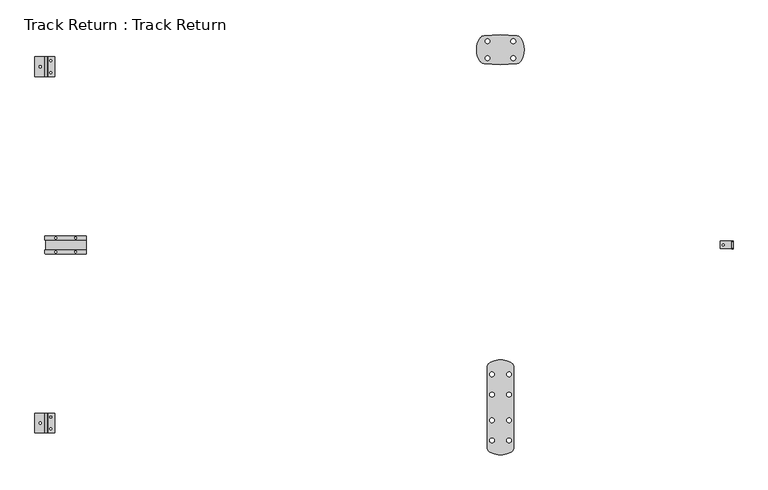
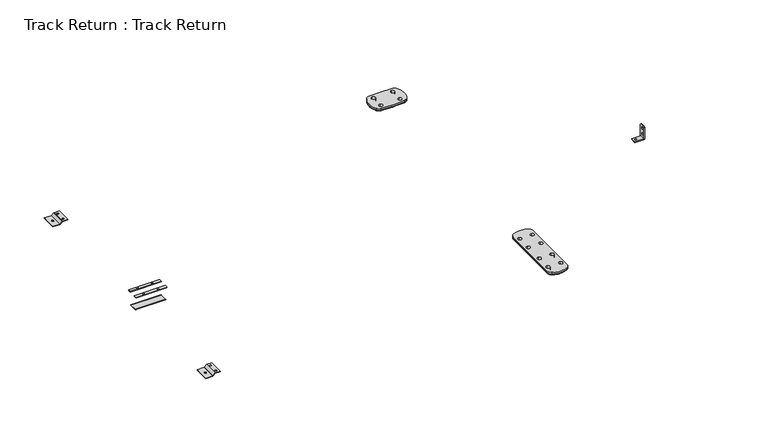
"""IFC4 building model written with IfcOpenShell, lengths in millimetres: furniture geometry, Track Return : Track Return."""

from ifc_helpers import new_model, si_unit, point, frame, frame_2d, origin, place, context, project, spatial, polyline, circle_curve, ellipse_curve, trimmed, segment, composite_curve, outline, extrude, source, transform, mapped, element, save
from ifc_brep_helpers import plane_surface, cylinder_surface, revolved_surface, advanced_brep


def track_return_track_return_1cf5c929(model_context):
    return source(origin(), model_context, "Body", "SolidModel", [
        advanced_brep(
        [(554.0000507, -9.5000015, 649.9999849), (554.0000507, -9.5000015, 646.99995), (583.9998158, -9.5000015, 646.99995), (587.0000713, -9.5000015, 649.9999849), (583.9999638, -9.5000015, 649.9999849), (587.0000713, 9.5000015, 649.9999849), (583.9998158, 9.5000015, 646.99995), (554.0000507, 9.5000015, 646.99995), (554.0000507, 9.5000015, 649.9999849), (583.9999638, 9.5000015, 649.9999849), (564.4999912, 0.0, 649.9999849), (559.5000057, 0.0, 649.9999849), (559.5000057, 0.0, 646.99995), (564.4999912, 0.0, 646.99995), (587.0000713, 10.3499496, 649.9999849), (587.0000713, 10.3499496, 690.9999533), (587.0000713, 8.349781, 692.9999765), (587.0000713, -8.3500717, 692.9999765), (587.0000713, -10.3502403, 690.9999533), (587.0000713, -10.3502403, 649.9999849), (587.0000713, -3.2499833, 682.9999692), (587.0000713, 3.2499833, 682.9999692), (587.0000713, -3.2499833, 663.0000272), (587.0000713, 3.2499833, 663.0000272), (583.9999638, -10.3502403, 649.9999849), (583.9999638, -10.3502403, 690.9999533), (583.9999638, -8.3500717, 692.9999765), (583.9999638, 8.349781, 692.9999765), (583.9999638, 10.3499496, 690.9999533), (583.9999638, 10.3499496, 649.9999849), (583.9999638, -3.2499833, 682.9999692), (583.9999638, 3.2499833, 682.9999692), (583.9999638, -3.2499833, 663.0000272), (583.9999638, 3.2499833, 663.0000272)],
        [
            (0, 1),
            (1, 2),
            (2, 3, circle_curve(frame((583.9998158, -9.5000015, 650.0002056), z_axis=(0.0, -1.0, 0.0), x_axis=(1.0, 0.0, 0.0)), 3.0002556)),
            (3, 4),
            (4, 0),
            (5, 6, circle_curve(frame((583.9998158, 9.5000015, 650.0002056), z_axis=(0.0, 1.0, 0.0), x_axis=(1.0, 0.0, 0.0)), 3.0002556)),
            (6, 7),
            (7, 8),
            (8, 9),
            (9, 5),
            (8, 0),
            (4, 9),
            (10, 11, circle_curve(frame((561.9999985, 0.0, 649.9999849), z_axis=(0.0, 0.0, -1.0), x_axis=(1.0, 0.0, 0.0)), 2.4999928)),
            (11, 10, circle_curve(frame((561.9999985, 0.0, 649.9999849), z_axis=(0.0, 0.0, -1.0), x_axis=(1.0, 0.0, 0.0)), 2.4999928)),
            (7, 1),
            (6, 2),
            (12, 13, circle_curve(frame((561.9999985, 0.0, 646.99995), z_axis=(0.0, 0.0, 1.0), x_axis=(1.0, 0.0, 0.0)), 2.4999927)),
            (13, 12, circle_curve(frame((561.9999985, 0.0, 646.99995), z_axis=(0.0, 0.0, 1.0), x_axis=(1.0, 0.0, 0.0)), 2.4999928)),
            (5, 3),
            (12, 11),
            (10, 13),
            (14, 15),
            (15, 16),
            (16, 17),
            (17, 18),
            (18, 19),
            (19, 3),
            (5, 14),
            (20, 21, circle_curve(frame((587.0000713, 0.0, 682.9999692), z_axis=(-1.0, 0.0, 0.0), x_axis=(0.0, 1.0, 0.0)), 3.2499833)),
            (21, 20, circle_curve(frame((587.0000713, 0.0, 682.9999692), z_axis=(-1.0, 0.0, 0.0), x_axis=(0.0, 1.0, 0.0)), 3.2499833)),
            (22, 23, circle_curve(frame((587.0000713, 0.0, 663.0000272), z_axis=(-1.0, 0.0, 0.0), x_axis=(0.0, 1.0, 0.0)), 3.2499833)),
            (23, 22, circle_curve(frame((587.0000713, 0.0, 663.0000272), z_axis=(-1.0, 0.0, 0.0), x_axis=(0.0, 1.0, 0.0)), 3.2499833)),
            (24, 25),
            (25, 26),
            (26, 27),
            (27, 28),
            (28, 29),
            (29, 9),
            (4, 24),
            (30, 31, circle_curve(frame((583.9999638, 0.0, 682.9999692), z_axis=(1.0, 0.0, 0.0), x_axis=(0.0, 1.0, 0.0)), 3.2499833)),
            (31, 30, circle_curve(frame((583.9999638, 0.0, 682.9999692), z_axis=(1.0, 0.0, 0.0), x_axis=(0.0, 1.0, 0.0)), 3.2499833)),
            (32, 33, circle_curve(frame((583.9999638, 0.0, 663.0000272), z_axis=(1.0, 0.0, 0.0), x_axis=(0.0, 1.0, 0.0)), 3.2499833)),
            (33, 32, circle_curve(frame((583.9999638, 0.0, 663.0000272), z_axis=(1.0, 0.0, 0.0), x_axis=(0.0, 1.0, 0.0)), 3.2499833)),
            (19, 24),
            (29, 14),
            (28, 15),
            (27, 16),
            (26, 17),
            (25, 18),
            (20, 30),
            (31, 21),
            (22, 32),
            (33, 23),
        ],
        [
            plane_surface(frame((554.0000507, -9.5000015, 649.9999849), z_axis=(0.0, -1.0, 0.0), x_axis=(-1.0, 0.0, 0.0))),
            plane_surface(frame((554.0000507, 9.5000015, 649.9999849), z_axis=(0.0, 1.0, 0.0), x_axis=(1.0, 0.0, 0.0))),
            plane_surface(frame((587.0000713, -9.5000015, 649.9999849), z_axis=(0.0, 0.0, 1.0), x_axis=(0.0, 1.0, 0.0))),
            plane_surface(frame((554.0000507, -9.5000015, 649.9999849), z_axis=(-1.0, 0.0, 0.0), x_axis=(0.0, 1.0, 0.0))),
            plane_surface(frame((554.0000507, -9.5000015, 646.99995), z_axis=(-1.2165205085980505e-10, 0.0, -1.0), x_axis=(0.0, 1.0, 0.0))),
            cylinder_surface(frame((583.9998158, 9.5000015, 650.0002056), z_axis=(0.0, -1.0, 0.0), x_axis=(1.0, 0.0, 0.0)), 3.0002556),
            revolved_surface(polyline([(564.4999912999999, 0.0, 649.9999849), (564.4999912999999, 0.0, 646.99995)]), (561.9999985, 0.0, 624.3843451), (0.0, 0.0, 1.0)),
            plane_surface(frame((587.0000713, 9.5000015, 649.9999849), z_axis=(1.0, 0.0, 0.0), x_axis=(0.0, 1.0, 0.0))),
            plane_surface(frame((583.9999638, 9.5000015, 649.9999849), z_axis=(-1.0, 0.0, 0.0), x_axis=(0.0, -1.0, 0.0))),
            plane_surface(frame((587.0000713, -10.3502403, 649.9999849), z_axis=(0.0, 0.0, -1.0), x_axis=(-1.0, 0.0, 0.0))),
            plane_surface(frame((587.0000713, 10.3499496, 649.9999849), z_axis=(0.0, 1.0, 0.0), x_axis=(-1.0, 0.0, 0.0))),
            plane_surface(frame((587.0000713, 10.3499496, 690.9999533), z_axis=(0.0, 0.7070810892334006, 0.7071324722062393), x_axis=(-1.0, 0.0, 0.0))),
            plane_surface(frame((587.0000713, 8.349781, 692.9999765), z_axis=(0.0, 0.0, 1.0), x_axis=(-1.0, 0.0, 0.0))),
            plane_surface(frame((587.0000713, -8.3500717, 692.9999765), z_axis=(0.0, -0.7070810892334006, 0.7071324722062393), x_axis=(-1.0, 0.0, 0.0))),
            plane_surface(frame((587.0000713, -10.3502403, 690.9999533), z_axis=(0.0, -1.0, 0.0), x_axis=(-1.0, 0.0, 0.0))),
            revolved_surface(polyline([(583.9999638, 3.2499833, 682.9999692), (587.0000713, 3.2499833, 682.9999692)]), (-259.8242569, 0.0, 682.9999692), (-1.0, 0.0, 0.0)),
            revolved_surface(polyline([(583.9999638, 3.2499833, 663.0000272), (587.0000713, 3.2499833, 663.0000272)]), (-259.8242569, 0.0, 663.0000272), (-1.0, 0.0, 0.0)),
        ],
        [
            (0, [[1, 2, 3, 4, 5]]),
            (1, [[6, 7, 8, 9, 10]]),
            (2, [[11, -5, 12, -9], [13, 14]]),
            (3, [[-1, -11, -8, 15]]),
            (4, [[-2, -15, -7, 16], [17, 18]]),
            (5, [[-3, -16, -6, 19]]),
            (6, [[20, -13, 21, -17]]),
            (6, [[-20, -18, -21, -14]]),
            (7, [[22, 23, 24, 25, 26, 27, -19, 28], [29, 30], [31, 32]]),
            (8, [[33, 34, 35, 36, 37, 38, -12, 39], [40, 41], [42, 43]]),
            (9, [[44, -39, -4, -27]]),
            (9, [[45, -28, -10, -38]]),
            (10, [[-22, -45, -37, 46]]),
            (11, [[-23, -46, -36, 47]]),
            (12, [[-24, -47, -35, 48]]),
            (13, [[-25, -48, -34, 49]]),
            (14, [[-26, -49, -33, -44]]),
            (15, [[-29, 50, -41, 51]]),
            (15, [[-30, -51, -40, -50]]),
            (16, [[-31, 52, -43, 53]]),
            (16, [[-32, -53, -42, -52]]),
        ],
    ),
        advanced_brep(
        [(40.7788824, 457.946422, 695.0000198), (51.9405602, 465.1314266, 695.0000198), (52.0091149, 520.9747133, 695.0000198), (40.8306683, 528.1910755, 695.0000198), (-41.4481163, 528.1910755, 695.0000198), (-52.6265629, 520.9747133, 695.0000198), (-52.5580082, 465.1314266, 695.0000198), (-41.3963304, 457.946422, 695.0000198), (-32.8087025, 465.610351, 695.0000198), (-32.8087025, 477.610351, 695.0000198), (-32.8087025, 520.476843, 695.0000198), (-32.8087025, 508.476843, 695.0000198), (32.1912544, 465.610351, 695.0000198), (32.1912544, 477.610351, 695.0000198), (32.1912544, 520.476843, 695.0000198), (32.1912544, 508.476843, 695.0000198), (-48.3329732, 518.4124706, 684.5000067), (-40.8806755, 523.2233788, 684.5000067), (40.2632274, 523.2233788, 684.5000067), (47.7155252, 518.4124706, 684.5000067), (47.6532744, 467.7042033, 684.5000067), (40.2121558, 462.9142003, 684.5000067), (-40.8296039, 462.9142003, 684.5000067), (-48.2707224, 467.7042033, 684.5000067), (-32.8087025, 465.610351, 684.5000067), (-32.8087025, 477.610351, 684.5000067), (-32.8087025, 520.476843, 684.5000067), (-32.8087025, 508.476843, 684.5000067), (32.1912544, 465.610351, 684.5000067), (32.1912544, 477.610351, 684.5000067), (32.1912544, 520.476843, 684.5000067), (32.1912544, 508.476843, 684.5000067), (40.7788824, 457.946422, 689.5000067), (51.9405602, 465.1314266, 689.5000067), (52.0091149, 520.9747133, 689.5000067), (40.8306683, 528.1910755, 689.5000067), (-41.4481163, 528.1910755, 689.5000067), (-52.6265629, 520.9747133, 689.5000067), (-52.5580082, 465.1314266, 689.5000067), (-41.3963304, 457.946422, 689.5000067)],
        [
            (0, 1, circle_curve(frame((39.0787027, 472.8497569, 695.0000198), z_axis=(0.0, 0.0, 1.0), x_axis=(0.0, 1.0, 0.0)), 15.0)),
            (1, 2, circle_curve(frame((5.3163683, 493.1103491, 695.0000198), z_axis=(0.0, 0.0, 1.0), x_axis=(0.0, 1.0, 0.0)), 54.3749517)),
            (2, 3, circle_curve(frame((39.1283458, 513.2879853, 695.0000198), z_axis=(0.0, 0.0, 1.0), x_axis=(0.0, 1.0, 0.0)), 15.0)),
            (3, 4, circle_curve(frame((-0.308724, 168.0336622, 695.0000198), z_axis=(0.0, 0.0, 1.0), x_axis=(0.0, -1.0, 0.0)), 362.4993958)),
            (4, 5, circle_curve(frame((-39.7457938, 513.2879853, 695.0000198), z_axis=(0.0, 0.0, 1.0), x_axis=(0.0, 1.0, 0.0)), 15.0)),
            (5, 6, circle_curve(frame((-5.9338164, 493.1103491, 695.0000198), z_axis=(0.0, 0.0, 1.0), x_axis=(0.0, 1.0, 0.0)), 54.3749517)),
            (6, 7, circle_curve(frame((-39.6961508, 472.8497569, 695.0000198), z_axis=(0.0, 0.0, 1.0), x_axis=(0.0, 1.0, 0.0)), 15.0)),
            (7, 0, circle_curve(frame((-0.308724, 818.1097469, 695.0000198), z_axis=(0.0, 0.0, 1.0), x_axis=(0.0, 1.0, 0.0)), 362.4993958)),
            (8, 9, circle_curve(frame((-32.8087025, 471.610351, 695.0000198), z_axis=(0.0, 0.0, -1.0), x_axis=(0.0, 1.0, 0.0)), 6.0)),
            (9, 8, circle_curve(frame((-32.8087025, 471.610351, 695.0000198), z_axis=(0.0, 0.0, -1.0), x_axis=(0.0, 1.0, 0.0)), 6.0)),
            (10, 11, circle_curve(frame((-32.8087025, 514.476843, 695.0000198), z_axis=(0.0, 0.0, -1.0), x_axis=(0.0, -1.0, 0.0)), 6.0)),
            (11, 10, circle_curve(frame((-32.8087025, 514.476843, 695.0000198), z_axis=(0.0, 0.0, -1.0), x_axis=(0.0, -1.0, 0.0)), 6.0)),
            (12, 13, circle_curve(frame((32.1912544, 471.610351, 695.0000198), z_axis=(0.0, 0.0, -1.0), x_axis=(0.0, 1.0, 0.0)), 6.0)),
            (13, 12, circle_curve(frame((32.1912544, 471.610351, 695.0000198), z_axis=(0.0, 0.0, -1.0), x_axis=(0.0, 1.0, 0.0)), 6.0)),
            (14, 15, circle_curve(frame((32.1912544, 514.476843, 695.0000198), z_axis=(0.0, 0.0, -1.0), x_axis=(0.0, -1.0, 0.0)), 6.0)),
            (15, 14, circle_curve(frame((32.1912544, 514.476843, 695.0000198), z_axis=(0.0, 0.0, -1.0), x_axis=(0.0, -1.0, 0.0)), 6.0)),
            (16, 17, circle_curve(frame((-39.7457938, 513.2879853, 684.5000067), z_axis=(0.0, 0.0, -1.0), x_axis=(-0.11348816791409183, 0.993539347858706, 0.0)), 10.0)),
            (17, 18, circle_curve(frame((-0.308724, 168.0336622, 684.5000067), z_axis=(0.0, 0.0, -1.0), x_axis=(0.11348816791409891, 0.9935393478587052, 0.0)), 357.4993958)),
            (18, 19, circle_curve(frame((39.1283458, 513.2879853, 684.5000067), z_axis=(0.0, 0.0, -1.0), x_axis=(0.8587179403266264, 0.5124485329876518, 0.0)), 10.0)),
            (19, 20, circle_curve(frame((5.3163683, 493.1103491, 684.5000067), z_axis=(0.0, 0.0, -1.0), x_axis=(0.8574571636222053, -0.5145553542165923, 0.0)), 49.3749517)),
            (20, 21, circle_curve(frame((39.0787027, 472.8497569, 684.5000067), z_axis=(0.0, 0.0, -1.0), x_axis=(0.11334531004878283, -0.9935556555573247, 0.0)), 10.0)),
            (21, 22, circle_curve(frame((-0.308724, 818.1097469, 684.5000067), z_axis=(0.0, 0.0, -1.0), x_axis=(-0.11334531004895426, -0.9935556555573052, 0.0)), 357.4993958)),
            (22, 23, circle_curve(frame((-39.6961508, 472.8497569, 684.5000067), z_axis=(0.0, 0.0, -1.0), x_axis=(-0.857457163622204, -0.5145553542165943, 0.0)), 10.0)),
            (23, 16, circle_curve(frame((-5.9338164, 493.1103491, 684.5000067), z_axis=(0.0, 0.0, -1.0), x_axis=(-0.85871794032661, 0.5124485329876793, 0.0)), 49.3749517)),
            (24, 25, circle_curve(frame((-32.8087025, 471.610351, 684.5000067), z_axis=(0.0, 0.0, 1.0), x_axis=(0.0, 1.0, 0.0)), 6.0)),
            (25, 24, circle_curve(frame((-32.8087025, 471.610351, 684.5000067), z_axis=(0.0, 0.0, 1.0), x_axis=(0.0, 1.0, 0.0)), 6.0)),
            (26, 27, circle_curve(frame((-32.8087025, 514.476843, 684.5000067), z_axis=(0.0, 0.0, 1.0), x_axis=(0.0, -1.0, 0.0)), 6.0)),
            (27, 26, circle_curve(frame((-32.8087025, 514.476843, 684.5000067), z_axis=(0.0, 0.0, 1.0), x_axis=(0.0, -1.0, 0.0)), 6.0)),
            (28, 29, circle_curve(frame((32.1912544, 471.610351, 684.5000067), z_axis=(0.0, 0.0, 1.0), x_axis=(0.0, 1.0, 0.0)), 6.0)),
            (29, 28, circle_curve(frame((32.1912544, 471.610351, 684.5000067), z_axis=(0.0, 0.0, 1.0), x_axis=(0.0, 1.0, 0.0)), 6.0)),
            (30, 31, circle_curve(frame((32.1912544, 514.476843, 684.5000067), z_axis=(0.0, 0.0, 1.0), x_axis=(0.0, -1.0, 0.0)), 6.0)),
            (31, 30, circle_curve(frame((32.1912544, 514.476843, 684.5000067), z_axis=(0.0, 0.0, 1.0), x_axis=(0.0, -1.0, 0.0)), 6.0)),
            (0, 32),
            (32, 33, circle_curve(frame((39.0787027, 472.8497569, 689.5000067), z_axis=(0.0, 0.0, 1.0), x_axis=(0.0, 1.0, 0.0)), 15.0)),
            (33, 1),
            (33, 34, circle_curve(frame((5.3163683, 493.1103491, 689.5000067), z_axis=(0.0, 0.0, 1.0), x_axis=(0.0, 1.0, 0.0)), 54.3749517)),
            (34, 2),
            (34, 35, circle_curve(frame((39.1283458, 513.2879853, 689.5000067), z_axis=(0.0, 0.0, 1.0), x_axis=(0.0, 1.0, 0.0)), 15.0)),
            (35, 3),
            (35, 36, circle_curve(frame((-0.308724, 168.0336622, 689.5000067), z_axis=(0.0, 0.0, 1.0), x_axis=(0.0, -1.0, 0.0)), 362.4993958)),
            (36, 4),
            (36, 37, circle_curve(frame((-39.7457938, 513.2879853, 689.5000067), z_axis=(0.0, 0.0, 1.0), x_axis=(0.0, 1.0, 0.0)), 15.0)),
            (37, 5),
            (37, 38, circle_curve(frame((-5.9338164, 493.1103491, 689.5000067), z_axis=(0.0, 0.0, 1.0), x_axis=(0.0, 1.0, 0.0)), 54.3749517)),
            (38, 6),
            (38, 39, circle_curve(frame((-39.6961508, 472.8497569, 689.5000067), z_axis=(0.0, 0.0, 1.0), x_axis=(0.0, 1.0, 0.0)), 15.0)),
            (39, 7),
            (39, 32, circle_curve(frame((-0.308724, 818.1097469, 689.5000067), z_axis=(0.0, 0.0, 1.0), x_axis=(0.0, 1.0, 0.0)), 362.4993958)),
            (8, 24),
            (25, 9),
            (10, 26),
            (27, 11),
            (12, 28),
            (29, 13),
            (14, 30),
            (31, 15),
            (16, 37, circle_curve(frame((-48.3329732, 518.4124706, 689.5000067), z_axis=(0.5124485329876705, 0.8587179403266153, 0.0), x_axis=(-0.8587179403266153, 0.5124485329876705, 0.0)), 5.0)),
            (36, 17, circle_curve(frame((-40.8806755, 523.2233788, 689.5000067), z_axis=(-0.9935393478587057, -0.11348816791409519, 0.0), x_axis=(-0.11348816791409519, 0.9935393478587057, 0.0)), 5.0)),
            (23, 38, circle_curve(frame((-48.2707224, 467.7042033, 689.5000067), z_axis=(-0.5145553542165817, 0.8574571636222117, 0.0), x_axis=(-0.8574571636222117, -0.5145553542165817, 0.0)), 5.0)),
            (22, 39, circle_curve(frame((-40.8296039, 462.9142003, 689.5000067), z_axis=(-0.9935556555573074, 0.11334531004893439, 0.0), x_axis=(-0.11334531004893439, -0.9935556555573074, 0.0)), 5.0)),
            (21, 32, circle_curve(frame((40.2121558, 462.9142003, 689.5000067), z_axis=(-0.9935556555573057, -0.11334531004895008, 0.0), x_axis=(0.11334531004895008, -0.9935556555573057, 0.0)), 5.0)),
            (20, 33, circle_curve(frame((47.6532744, 467.7042033, 689.5000067), z_axis=(-0.5145553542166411, -0.8574571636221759, 0.0), x_axis=(0.8574571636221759, -0.5145553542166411, 0.0)), 5.0)),
            (19, 34, circle_curve(frame((47.7155252, 518.4124706, 689.5000067), z_axis=(0.5124485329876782, -0.8587179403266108, 0.0), x_axis=(0.8587179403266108, 0.5124485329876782, 0.0)), 5.0)),
            (18, 35, circle_curve(frame((40.2632274, 523.2233788, 689.5000067), z_axis=(0.9935393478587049, -0.11348816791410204, 0.0), x_axis=(0.11348816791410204, 0.9935393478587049, 0.0)), 5.0)),
        ],
        [
            plane_surface(frame((39.0787027, 487.8497569, 695.0000198), z_axis=(0.0, 0.0, 1.0), x_axis=(-1.0, 0.0, 0.0))),
            plane_surface(frame((39.0787027, 487.8497569, 684.5000067), z_axis=(0.0, 0.0, -1.0), x_axis=(1.0, 0.0, 0.0))),
            cylinder_surface(frame((39.0787027, 472.8497569, 684.5000067), z_axis=(0.0, 0.0, 1.0), x_axis=(0.0, 1.0, 0.0)), 15.0),
            cylinder_surface(frame((5.3163683, 493.1103491, 684.5000067), z_axis=(0.0, 0.0, 1.0), x_axis=(0.0, 1.0, 0.0)), 54.3749517),
            cylinder_surface(frame((39.1283458, 513.2879853, 684.5000067), z_axis=(0.0, 0.0, 1.0), x_axis=(0.0, 1.0, 0.0)), 15.0),
            cylinder_surface(frame((-0.308724, 168.0336622, 684.5000067), z_axis=(0.0, 0.0, 1.0), x_axis=(0.0, -1.0, 0.0)), 362.4993958),
            cylinder_surface(frame((-39.7457938, 513.2879853, 684.5000067), z_axis=(0.0, 0.0, 1.0), x_axis=(0.0, 1.0, 0.0)), 15.0),
            cylinder_surface(frame((-5.9338164, 493.1103491, 684.5000067), z_axis=(0.0, 0.0, 1.0), x_axis=(0.0, 1.0, 0.0)), 54.3749517),
            cylinder_surface(frame((-39.6961508, 472.8497569, 684.5000067), z_axis=(0.0, 0.0, 1.0), x_axis=(0.0, 1.0, 0.0)), 15.0),
            cylinder_surface(frame((-0.308724, 818.1097469, 684.5000067), z_axis=(0.0, 0.0, 1.0), x_axis=(0.0, 1.0, 0.0)), 362.4993958),
            revolved_surface(polyline([(-32.8087025, 477.610351, 684.5000067), (-32.8087025, 477.610351, 695.0000198)]), (-32.8087025, 471.610351, 0.0), (0.0, 0.0, -1.0)),
            revolved_surface(polyline([(-32.8087025, 508.47684300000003, 684.5000067), (-32.8087025, 508.47684300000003, 695.0000198)]), (-32.8087025, 514.476843, 0.0), (0.0, 0.0, -1.0)),
            revolved_surface(polyline([(32.1912544, 477.610351, 684.5000067), (32.1912544, 477.610351, 695.0000198)]), (32.1912544, 471.610351, 0.0), (0.0, 0.0, -1.0)),
            revolved_surface(polyline([(32.1912544, 508.47684300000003, 684.5000067), (32.1912544, 508.47684300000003, 695.0000198)]), (32.1912544, 514.476843, 0.0), (0.0, 0.0, -1.0)),
            revolved_surface(trimmed(ellipse_curve(frame((-40.8806755, 523.2233788, 689.5000067), z_axis=(0.9935393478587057, 0.11348816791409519, 0.0), x_axis=(-0.11348816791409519, 0.9935393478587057, 0.0)), 5.0, 5.0), [point((-40.8806755, 523.2233788, 684.5000067))], [point((-41.4481163, 528.1910755, 689.5000067))], True, "CARTESIAN"), (-39.7457938, 513.2879853, 684.5000067), (0.0, 0.0, 1.0)),
            revolved_surface(trimmed(ellipse_curve(frame((-48.3329732, 518.4124706, 689.5000067), z_axis=(0.5124485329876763, 0.8587179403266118, 0.0), x_axis=(-0.8587179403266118, 0.5124485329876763, 0.0)), 5.0, 5.0), [point((-48.3329732, 518.4124706, 684.5000067))], [point((-52.6265629, 520.9747133, 689.5000067))], True, "CARTESIAN"), (-5.9338164, 493.1103491, 684.5000067), (0.0, 0.0, 1.0)),
            revolved_surface(trimmed(ellipse_curve(frame((-48.2707224, 467.7042033, 689.5000067), z_axis=(-0.5145553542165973, 0.8574571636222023, 0.0), x_axis=(-0.8574571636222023, -0.5145553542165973, 0.0)), 5.0, 5.0), [point((-48.2707224, 467.7042033, 684.5000067))], [point((-52.5580082, 465.1314266, 689.5000067))], True, "CARTESIAN"), (-39.6961508, 472.8497569, 684.5000067), (0.0, 0.0, 1.0)),
            revolved_surface(trimmed(ellipse_curve(frame((-40.8296039, 462.9142003, 689.5000067), z_axis=(-0.9935556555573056, 0.11334531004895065, 0.0), x_axis=(-0.11334531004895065, -0.9935556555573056, 0.0)), 5.0, 5.0), [point((-40.8296039, 462.9142003, 684.5000067))], [point((-41.3963304, 457.946422, 689.5000067))], True, "CARTESIAN"), (-0.308724, 818.1097469, 684.5000067), (0.0, 0.0, 1.0)),
            revolved_surface(trimmed(ellipse_curve(frame((40.2121558, 462.9142003, 689.5000067), z_axis=(-0.9935556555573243, -0.11334531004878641, 0.0), x_axis=(0.11334531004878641, -0.9935556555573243, 0.0)), 5.0, 5.0), [point((40.2121558, 462.9142003, 684.5000067))], [point((40.7788824, 457.946422, 689.5000067))], True, "CARTESIAN"), (39.0787027, 472.8497569, 684.5000067), (0.0, 0.0, 1.0)),
            revolved_surface(trimmed(ellipse_curve(frame((47.6532744, 467.7042033, 689.5000067), z_axis=(-0.5145553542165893, -0.857457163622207, 0.0), x_axis=(0.857457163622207, -0.5145553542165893, 0.0)), 5.0, 5.0), [point((47.6532744, 467.7042033, 684.5000067))], [point((51.9405602, 465.1314266, 689.5000067))], True, "CARTESIAN"), (5.3163683, 493.1103491, 684.5000067), (0.0, 0.0, 1.0)),
            revolved_surface(trimmed(ellipse_curve(frame((47.7155252, 518.4124706, 689.5000067), z_axis=(0.5124485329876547, -0.8587179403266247, 0.0), x_axis=(0.8587179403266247, 0.5124485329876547, 0.0)), 5.0, 5.0), [point((47.7155252, 518.4124706, 684.5000067))], [point((52.0091149, 520.9747133, 689.5000067))], True, "CARTESIAN"), (39.1283458, 513.2879853, 684.5000067), (0.0, 0.0, 1.0)),
            revolved_surface(trimmed(ellipse_curve(frame((40.2632274, 523.2233788, 689.5000067), z_axis=(0.9935393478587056, -0.1134881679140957, 0.0), x_axis=(0.1134881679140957, 0.9935393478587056, 0.0)), 5.0, 5.0), [point((40.2632274, 523.2233788, 684.5000067))], [point((40.8306683, 528.1910755, 689.5000067))], True, "CARTESIAN"), (-0.308724, 168.0336622, 684.5000067), (0.0, 0.0, 1.0)),
        ],
        [
            (0, [[1, 2, 3, 4, 5, 6, 7, 8], [9, 10], [11, 12], [13, 14], [15, 16]]),
            (1, [[17, 18, 19, 20, 21, 22, 23, 24], [25, 26], [27, 28], [29, 30], [31, 32]]),
            (2, [[-1, 33, 34, 35]]),
            (3, [[-2, -35, 36, 37]]),
            (4, [[-3, -37, 38, 39]]),
            (5, [[-4, -39, 40, 41]]),
            (6, [[-5, -41, 42, 43]]),
            (7, [[-6, -43, 44, 45]]),
            (8, [[-7, -45, 46, 47]]),
            (9, [[-8, -47, 48, -33]]),
            (10, [[-9, 49, -26, 50]]),
            (10, [[-10, -50, -25, -49]]),
            (11, [[-11, 51, -28, 52]]),
            (11, [[-12, -52, -27, -51]]),
            (12, [[-13, 53, -30, 54]]),
            (12, [[-14, -54, -29, -53]]),
            (13, [[-15, 55, -32, 56]]),
            (13, [[-16, -56, -31, -55]]),
            (14, [[57, -42, 58, -17]]),
            (15, [[-57, -24, 59, -44]]),
            (16, [[-59, -23, 60, -46]]),
            (17, [[-60, -22, 61, -48]]),
            (18, [[-61, -21, 62, -34]]),
            (19, [[-62, -20, 63, -36]]),
            (20, [[-63, -19, 64, -38]]),
            (21, [[-58, -40, -64, -18]]),
        ],
    ),
        extrude(outline(polyline([(687.4999489, -1150.8242226), (685.4999983, -1150.8242226), (685.4999983, -1149.9957939), (692.9999765, -1141.9957962), (694.9999998, -1141.9957962), (694.9999998, -1142.8242249), (687.4999489, -1150.8242226)])), frame((0.0, 424.9999578, 0.0), z_axis=(0.0, 1.0, 0.0), x_axis=(0.0, 0.0, 1.0)), (0.0, 0.0, 1.0), 50.0000004),
        extrude(outline(polyline([(-1125.0000086, 424.9999578), (-1141.9957962, 424.9999578), (-1141.9957962, 474.9999582), (-1125.0000086, 474.9999582), (-1125.0000086, 424.9999578)]), holes=[composite_curve([segment(trimmed(circle_curve(frame_2d((-1135.0000114, 434.9999652)), 2.4999928), [point((-1137.5000041, 434.9999652))], [point((-1132.5000186, 434.9999652))], True, "CARTESIAN"), True, "CONTINUOUS"), segment(trimmed(circle_curve(frame_2d((-1135.0000114, 434.9999652)), 2.4999928), [point((-1132.5000186, 434.9999652))], [point((-1137.5000041, 434.9999652))], True, "CARTESIAN"), True, "CONTINUOUS")], self_intersect=False), composite_curve([segment(trimmed(circle_curve(frame_2d((-1135.0000114, 464.9999509)), 2.4999928), [point((-1137.5000041, 464.9999509))], [point((-1132.5000186, 464.9999509))], True, "CARTESIAN"), True, "CONTINUOUS"), segment(trimmed(circle_curve(frame_2d((-1135.0000114, 464.9999509)), 2.4999928), [point((-1132.5000186, 464.9999509))], [point((-1137.5000041, 464.9999509))], True, "CARTESIAN"), True, "CONTINUOUS")], self_intersect=False)]), frame((0.0, 0.0, 692.9999765), z_axis=(0.0, 0.0, 1.0), x_axis=(1.0, 0.0, 0.0)), (0.0, 0.0, 1.0), 2.0000233),
        extrude(outline(polyline([(-1150.8242226, 424.9999578), (-1175.000009, 424.9999578), (-1175.000009, 474.9999582), (-1150.8242226, 474.9999582), (-1150.8242226, 424.9999578)]), holes=[composite_curve([segment(trimmed(circle_curve(frame_2d((-1161.5000109, 449.999958)), 2.9999986), [point((-1164.5000094, 449.999958))], [point((-1158.5000123, 449.999958))], True, "CARTESIAN"), True, "CONTINUOUS"), segment(trimmed(circle_curve(frame_2d((-1161.5000109, 449.999958)), 2.9999986), [point((-1158.5000123, 449.999958))], [point((-1164.5000094, 449.999958))], True, "CARTESIAN"), True, "CONTINUOUS")], self_intersect=False)]), frame((0.0, 0.0, 685.4999983), z_axis=(0.0, 0.0, 1.0), x_axis=(1.0, 0.0, 0.0)), (0.0, 0.0, 1.0), 1.9999506),
        advanced_brep(
        [(-33.9476373, -511.7981151, 695.0000198), (-26.2167766, -523.8874279, 695.0000198), (26.2167766, -523.8874279, 695.0000198), (33.9476373, -511.7981151, 695.0000198), (33.9476373, -309.4519302, 695.0000198), (26.2167766, -297.3626175, 695.0000198), (-26.2167766, -297.3626175, 695.0000198), (-33.9476373, -309.4519302, 695.0000198), (-21.4999958, -333.125014, 695.0000198), (-21.4999958, -321.125014, 695.0000198), (21.4999987, -333.125014, 695.0000198), (21.4999987, -321.125014, 695.0000198), (-21.4999958, -384.0742363, 695.0000198), (-21.4999958, -372.0742363, 695.0000198), (21.4999987, -384.0742363, 695.0000198), (21.4999987, -372.0742363, 695.0000198), (-21.4999958, -449.0742296, 695.0000198), (-21.4999958, -437.0742296, 695.0000198), (21.4999987, -449.0742296, 695.0000198), (21.4999987, -437.0742296, 695.0000198), (-21.4999958, -500.0742416, 695.0000198), (-21.4999958, -488.0742416, 695.0000198), (21.4999987, -500.0742416, 695.0000198), (21.4999987, -488.0742416, 695.0000198), (-23.8060431, -519.5069754, 684.5000067), (-28.9599502, -511.4474336, 684.5000067), (-28.9599502, -309.8026118, 684.5000067), (-23.8060431, -301.74307, 684.5000067), (23.8060431, -301.74307, 684.5000067), (28.9599502, -309.8026118, 684.5000067), (28.9599502, -511.4474336, 684.5000067), (23.8060431, -519.5069754, 684.5000067), (-21.4999958, -333.125014, 684.5000067), (-21.4999958, -321.125014, 684.5000067), (21.4999987, -333.125014, 684.5000067), (21.4999987, -321.125014, 684.5000067), (-21.4999958, -384.0742363, 684.5000067), (-21.4999958, -372.0742363, 684.5000067), (21.4999987, -384.0742363, 684.5000067), (21.4999987, -372.0742363, 684.5000067), (-21.4999958, -449.0742296, 684.5000067), (-21.4999958, -437.0742296, 684.5000067), (21.4999987, -449.0742296, 684.5000067), (21.4999987, -437.0742296, 684.5000067), (-21.4999958, -500.0742416, 684.5000067), (-21.4999958, -488.0742416, 684.5000067), (21.4999987, -500.0742416, 684.5000067), (21.4999987, -488.0742416, 684.5000067), (-33.9476373, -511.7981151, 689.5000067), (-26.2167766, -523.8874279, 689.5000067), (26.2167766, -523.8874279, 689.5000067), (33.9476373, -511.7981151, 689.5000067), (33.9476373, -309.4519302, 689.5000067), (26.2167766, -297.3626175, 689.5000067), (-26.2167766, -297.3626175, 689.5000067), (-33.9476373, -309.4519302, 689.5000067)],
        [
            (0, 1, circle_curve(frame((-18.984576, -510.7460704, 695.0000198), z_axis=(0.0, 0.0, 1.0), x_axis=(0.0, 1.0, 0.0)), 15.0)),
            (1, 2, circle_curve(frame((0.0, -476.2499173, 695.0000198), z_axis=(0.0, 0.0, 1.0), x_axis=(0.0, 1.0, 0.0)), 54.3751027)),
            (2, 3, circle_curve(frame((18.984576, -510.7460704, 695.0000198), z_axis=(0.0, 0.0, 1.0), x_axis=(0.0, 1.0, 0.0)), 15.0)),
            (3, 4, circle_curve(frame((-1405.0208773, -410.6250227, 695.0000198), z_axis=(0.0, 0.0, 1.0), x_axis=(0.0, 1.0, 0.0)), 1442.5208423)),
            (4, 5, circle_curve(frame((18.984576, -310.5039749, 695.0000198), z_axis=(0.0, 0.0, 1.0), x_axis=(0.0, 1.0, 0.0)), 15.0)),
            (5, 6, circle_curve(frame((0.0, -345.0001281, 695.0000198), z_axis=(0.0, 0.0, 1.0), x_axis=(0.0, 1.0, 0.0)), 54.3751027)),
            (6, 7, circle_curve(frame((-18.984576, -310.5039749, 695.0000198), z_axis=(0.0, 0.0, 1.0), x_axis=(0.0, 1.0, 0.0)), 15.0)),
            (7, 0, circle_curve(frame((1405.0208773, -410.6250227, 695.0000198), z_axis=(0.0, 0.0, 1.0), x_axis=(0.0, 1.0, 0.0)), 1442.5208423)),
            (8, 9, circle_curve(frame((-21.4999958, -327.125014, 695.0000198), z_axis=(0.0, 0.0, -1.0), x_axis=(0.0, 1.0, 0.0)), 6.0)),
            (9, 8, circle_curve(frame((-21.4999958, -327.125014, 695.0000198), z_axis=(0.0, 0.0, -1.0), x_axis=(0.0, 1.0, 0.0)), 6.0)),
            (10, 11, circle_curve(frame((21.4999987, -327.125014, 695.0000198), z_axis=(0.0, 0.0, -1.0), x_axis=(0.0, 1.0, 0.0)), 6.0)),
            (11, 10, circle_curve(frame((21.4999987, -327.125014, 695.0000198), z_axis=(0.0, 0.0, -1.0), x_axis=(0.0, 1.0, 0.0)), 6.0)),
            (12, 13, circle_curve(frame((-21.4999958, -378.0742363, 695.0000198), z_axis=(0.0, 0.0, -1.0), x_axis=(0.0, 1.0, 0.0)), 6.0)),
            (13, 12, circle_curve(frame((-21.4999958, -378.0742363, 695.0000198), z_axis=(0.0, 0.0, -1.0), x_axis=(0.0, 1.0, 0.0)), 6.0)),
            (14, 15, circle_curve(frame((21.4999987, -378.0742363, 695.0000198), z_axis=(0.0, 0.0, -1.0), x_axis=(0.0, 1.0, 0.0)), 6.0)),
            (15, 14, circle_curve(frame((21.4999987, -378.0742363, 695.0000198), z_axis=(0.0, 0.0, -1.0), x_axis=(0.0, 1.0, 0.0)), 6.0)),
            (16, 17, circle_curve(frame((-21.4999958, -443.0742296, 695.0000198), z_axis=(0.0, 0.0, -1.0), x_axis=(0.0, 1.0, 0.0)), 6.0)),
            (17, 16, circle_curve(frame((-21.4999958, -443.0742296, 695.0000198), z_axis=(0.0, 0.0, -1.0), x_axis=(0.0, 1.0, 0.0)), 6.0)),
            (18, 19, circle_curve(frame((21.4999987, -443.0742296, 695.0000198), z_axis=(0.0, 0.0, -1.0), x_axis=(0.0, 1.0, 0.0)), 6.0)),
            (19, 18, circle_curve(frame((21.4999987, -443.0742296, 695.0000198), z_axis=(0.0, 0.0, -1.0), x_axis=(0.0, 1.0, 0.0)), 6.0)),
            (20, 21, circle_curve(frame((-21.4999958, -494.0742416, 695.0000198), z_axis=(0.0, 0.0, -1.0), x_axis=(0.0, 1.0, 0.0)), 6.0)),
            (21, 20, circle_curve(frame((-21.4999958, -494.0742416, 695.0000198), z_axis=(0.0, 0.0, -1.0), x_axis=(0.0, 1.0, 0.0)), 6.0)),
            (22, 23, circle_curve(frame((21.4999987, -494.0742416, 695.0000198), z_axis=(0.0, 0.0, -1.0), x_axis=(0.0, 1.0, 0.0)), 6.0)),
            (23, 22, circle_curve(frame((21.4999987, -494.0742416, 695.0000198), z_axis=(0.0, 0.0, -1.0), x_axis=(0.0, 1.0, 0.0)), 6.0)),
            (24, 25, circle_curve(frame((-18.984576, -510.7460704, 684.5000067), z_axis=(0.0, 0.0, -1.0), x_axis=(-0.9975374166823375, -0.07013631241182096, 0.0)), 10.0)),
            (25, 26, circle_curve(frame((1405.0208773, -410.6250227, 684.5000067), z_axis=(0.0, 0.0, -1.0), x_axis=(-0.9975374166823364, 0.07013631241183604, 0.0)), 1437.5208423)),
            (26, 27, circle_curve(frame((-18.984576, -310.5039749, 684.5000067), z_axis=(0.0, 0.0, -1.0), x_axis=(-0.48214670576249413, 0.8760904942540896, 0.0)), 10.0)),
            (27, 28, circle_curve(frame((0.0, -345.0001281, 684.5000067), z_axis=(0.0, 0.0, -1.0), x_axis=(0.48214670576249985, 0.8760904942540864, 0.0)), 49.3751027)),
            (28, 29, circle_curve(frame((18.984576, -310.5039749, 684.5000067), z_axis=(0.0, 0.0, -1.0), x_axis=(0.9975374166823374, 0.07013631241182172, 0.0)), 10.0)),
            (29, 30, circle_curve(frame((-1405.0208773, -410.6250227, 684.5000067), z_axis=(0.0, 0.0, -1.0), x_axis=(0.9975374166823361, -0.07013631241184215, 0.0)), 1437.5208423)),
            (30, 31, circle_curve(frame((18.984576, -510.7460704, 684.5000067), z_axis=(0.0, 0.0, -1.0), x_axis=(0.48214670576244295, -0.8760904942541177, 0.0)), 10.0)),
            (31, 24, circle_curve(frame((0.0, -476.2499173, 684.5000067), z_axis=(0.0, 0.0, -1.0), x_axis=(-0.48214670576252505, -0.8760904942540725, 0.0)), 49.3751027)),
            (32, 33, circle_curve(frame((-21.4999958, -327.125014, 684.5000067), z_axis=(0.0, 0.0, 1.0), x_axis=(0.0, 1.0, 0.0)), 6.0)),
            (33, 32, circle_curve(frame((-21.4999958, -327.125014, 684.5000067), z_axis=(0.0, 0.0, 1.0), x_axis=(0.0, 1.0, 0.0)), 6.0)),
            (34, 35, circle_curve(frame((21.4999987, -327.125014, 684.5000067), z_axis=(0.0, 0.0, 1.0), x_axis=(0.0, 1.0, 0.0)), 6.0)),
            (35, 34, circle_curve(frame((21.4999987, -327.125014, 684.5000067), z_axis=(0.0, 0.0, 1.0), x_axis=(0.0, 1.0, 0.0)), 6.0)),
            (36, 37, circle_curve(frame((-21.4999958, -378.0742363, 684.5000067), z_axis=(0.0, 0.0, 1.0), x_axis=(0.0, 1.0, 0.0)), 6.0)),
            (37, 36, circle_curve(frame((-21.4999958, -378.0742363, 684.5000067), z_axis=(0.0, 0.0, 1.0), x_axis=(0.0, 1.0, 0.0)), 6.0)),
            (38, 39, circle_curve(frame((21.4999987, -378.0742363, 684.5000067), z_axis=(0.0, 0.0, 1.0), x_axis=(0.0, 1.0, 0.0)), 6.0)),
            (39, 38, circle_curve(frame((21.4999987, -378.0742363, 684.5000067), z_axis=(0.0, 0.0, 1.0), x_axis=(0.0, 1.0, 0.0)), 6.0)),
            (40, 41, circle_curve(frame((-21.4999958, -443.0742296, 684.5000067), z_axis=(0.0, 0.0, 1.0), x_axis=(0.0, 1.0, 0.0)), 6.0)),
            (41, 40, circle_curve(frame((-21.4999958, -443.0742296, 684.5000067), z_axis=(0.0, 0.0, 1.0), x_axis=(0.0, 1.0, 0.0)), 6.0)),
            (42, 43, circle_curve(frame((21.4999987, -443.0742296, 684.5000067), z_axis=(0.0, 0.0, 1.0), x_axis=(0.0, 1.0, 0.0)), 6.0)),
            (43, 42, circle_curve(frame((21.4999987, -443.0742296, 684.5000067), z_axis=(0.0, 0.0, 1.0), x_axis=(0.0, 1.0, 0.0)), 6.0)),
            (44, 45, circle_curve(frame((-21.4999958, -494.0742416, 684.5000067), z_axis=(0.0, 0.0, 1.0), x_axis=(0.0, 1.0, 0.0)), 6.0)),
            (45, 44, circle_curve(frame((-21.4999958, -494.0742416, 684.5000067), z_axis=(0.0, 0.0, 1.0), x_axis=(0.0, 1.0, 0.0)), 6.0)),
            (46, 47, circle_curve(frame((21.4999987, -494.0742416, 684.5000067), z_axis=(0.0, 0.0, 1.0), x_axis=(0.0, 1.0, 0.0)), 6.0)),
            (47, 46, circle_curve(frame((21.4999987, -494.0742416, 684.5000067), z_axis=(0.0, 0.0, 1.0), x_axis=(0.0, 1.0, 0.0)), 6.0)),
            (0, 48),
            (48, 49, circle_curve(frame((-18.984576, -510.7460704, 689.5000067), z_axis=(0.0, 0.0, 1.0), x_axis=(0.0, 1.0, 0.0)), 15.0)),
            (49, 1),
            (49, 50, circle_curve(frame((0.0, -476.2499173, 689.5000067), z_axis=(0.0, 0.0, 1.0), x_axis=(0.0, 1.0, 0.0)), 54.3751027)),
            (50, 2),
            (50, 51, circle_curve(frame((18.984576, -510.7460704, 689.5000067), z_axis=(0.0, 0.0, 1.0), x_axis=(0.0, 1.0, 0.0)), 15.0)),
            (51, 3),
            (51, 52, circle_curve(frame((-1405.0208773, -410.6250227, 689.5000067), z_axis=(0.0, 0.0, 1.0), x_axis=(0.0, 1.0, 0.0)), 1442.5208423)),
            (52, 4),
            (52, 53, circle_curve(frame((18.984576, -310.5039749, 689.5000067), z_axis=(0.0, 0.0, 1.0), x_axis=(0.0, 1.0, 0.0)), 15.0)),
            (53, 5),
            (53, 54, circle_curve(frame((0.0, -345.0001281, 689.5000067), z_axis=(0.0, 0.0, 1.0), x_axis=(0.0, 1.0, 0.0)), 54.3751027)),
            (54, 6),
            (54, 55, circle_curve(frame((-18.984576, -310.5039749, 689.5000067), z_axis=(0.0, 0.0, 1.0), x_axis=(0.0, 1.0, 0.0)), 15.0)),
            (55, 7),
            (55, 48, circle_curve(frame((1405.0208773, -410.6250227, 689.5000067), z_axis=(0.0, 0.0, 1.0), x_axis=(0.0, 1.0, 0.0)), 1442.5208423)),
            (8, 32),
            (33, 9),
            (10, 34),
            (35, 11),
            (12, 36),
            (37, 13),
            (14, 38),
            (39, 15),
            (16, 40),
            (41, 17),
            (18, 42),
            (43, 19),
            (20, 44),
            (45, 21),
            (22, 46),
            (47, 23),
            (24, 49, circle_curve(frame((-23.8060431, -519.5069754, 689.5000067), z_axis=(-0.8760904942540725, 0.4821467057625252, 0.0), x_axis=(-0.4821467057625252, -0.8760904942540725, 0.0)), 5.0)),
            (48, 25, circle_curve(frame((-28.9599502, -511.4474336, 689.5000067), z_axis=(0.07013631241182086, -0.9975374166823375, 0.0), x_axis=(-0.9975374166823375, -0.07013631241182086, 0.0)), 5.0)),
            (31, 50, circle_curve(frame((23.8060431, -519.5069754, 689.5000067), z_axis=(-0.8760904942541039, -0.4821467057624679, 0.0), x_axis=(0.4821467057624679, -0.8760904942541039, 0.0)), 5.0)),
            (30, 51, circle_curve(frame((28.9599502, -511.4474336, 689.5000067), z_axis=(-0.07013631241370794, -0.9975374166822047, 0.0), x_axis=(0.9975374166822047, -0.07013631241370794, 0.0)), 5.0)),
            (29, 52, circle_curve(frame((28.9599502, -309.8026118, 689.5000067), z_axis=(0.07013631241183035, -0.9975374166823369, 0.0), x_axis=(0.9975374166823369, 0.07013631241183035, 0.0)), 5.0)),
            (28, 53, circle_curve(frame((23.8060431, -301.74307, 689.5000067), z_axis=(0.8760904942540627, -0.4821467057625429, 0.0), x_axis=(0.4821467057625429, 0.8760904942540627, 0.0)), 5.0)),
            (27, 54, circle_curve(frame((-23.8060431, -301.74307, 689.5000067), z_axis=(0.8760904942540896, 0.48214670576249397, 0.0), x_axis=(-0.48214670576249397, 0.8760904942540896, 0.0)), 5.0)),
            (26, 55, circle_curve(frame((-28.9599502, -309.8026118, 689.5000067), z_axis=(0.07013631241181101, 0.9975374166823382, 0.0), x_axis=(-0.9975374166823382, 0.07013631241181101, 0.0)), 5.0)),
        ],
        [
            plane_surface(frame((-18.984576, -495.7460704, 695.0000198), z_axis=(0.0, 0.0, 1.0), x_axis=(-1.0, 0.0, 0.0))),
            plane_surface(frame((-18.984576, -495.7460704, 684.5000067), z_axis=(0.0, 0.0, -1.0), x_axis=(1.0, 0.0, 0.0))),
            cylinder_surface(frame((-18.984576, -510.7460704, 684.5000067), z_axis=(0.0, 0.0, 1.0), x_axis=(0.0, 1.0, 0.0)), 15.0),
            cylinder_surface(frame((0.0, -476.2499173, 684.5000067), z_axis=(0.0, 0.0, 1.0), x_axis=(0.0, 1.0, 0.0)), 54.3751027),
            cylinder_surface(frame((18.984576, -510.7460704, 684.5000067), z_axis=(0.0, 0.0, 1.0), x_axis=(0.0, 1.0, 0.0)), 15.0),
            cylinder_surface(frame((-1405.0208773, -410.6250227, 684.5000067), z_axis=(0.0, 0.0, 1.0), x_axis=(0.0, 1.0, 0.0)), 1442.5208423),
            cylinder_surface(frame((18.984576, -310.5039749, 684.5000067), z_axis=(0.0, 0.0, 1.0), x_axis=(0.0, 1.0, 0.0)), 15.0),
            cylinder_surface(frame((0.0, -345.0001281, 684.5000067), z_axis=(0.0, 0.0, 1.0), x_axis=(0.0, 1.0, 0.0)), 54.3751027),
            cylinder_surface(frame((-18.984576, -310.5039749, 684.5000067), z_axis=(0.0, 0.0, 1.0), x_axis=(0.0, 1.0, 0.0)), 15.0),
            cylinder_surface(frame((1405.0208773, -410.6250227, 684.5000067), z_axis=(0.0, 0.0, 1.0), x_axis=(0.0, 1.0, 0.0)), 1442.5208423),
            revolved_surface(polyline([(-21.4999958, -321.125014, 684.5000067), (-21.4999958, -321.125014, 695.0000198)]), (-21.4999958, -327.125014, 0.0), (0.0, 0.0, -1.0)),
            revolved_surface(polyline([(21.4999987, -321.125014, 684.5000067), (21.4999987, -321.125014, 695.0000198)]), (21.4999987, -327.125014, 0.0), (0.0, 0.0, -1.0)),
            revolved_surface(polyline([(-21.4999958, -372.0742363, 684.5000067), (-21.4999958, -372.0742363, 695.0000198)]), (-21.4999958, -378.0742363, 0.0), (0.0, 0.0, -1.0)),
            revolved_surface(polyline([(21.4999987, -372.0742363, 684.5000067), (21.4999987, -372.0742363, 695.0000198)]), (21.4999987, -378.0742363, 0.0), (0.0, 0.0, -1.0)),
            revolved_surface(polyline([(-21.4999958, -437.0742296, 684.5000067), (-21.4999958, -437.0742296, 695.0000198)]), (-21.4999958, -443.0742296, 0.0), (0.0, 0.0, -1.0)),
            revolved_surface(polyline([(21.4999987, -437.0742296, 684.5000067), (21.4999987, -437.0742296, 695.0000198)]), (21.4999987, -443.0742296, 0.0), (0.0, 0.0, -1.0)),
            revolved_surface(polyline([(-21.4999958, -488.0742416, 684.5000067), (-21.4999958, -488.0742416, 695.0000198)]), (-21.4999958, -494.0742416, 0.0), (0.0, 0.0, -1.0)),
            revolved_surface(polyline([(21.4999987, -488.0742416, 684.5000067), (21.4999987, -488.0742416, 695.0000198)]), (21.4999987, -494.0742416, 0.0), (0.0, 0.0, -1.0)),
            revolved_surface(trimmed(ellipse_curve(frame((-28.9599502, -511.4474336, 689.5000067), z_axis=(-0.07013631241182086, 0.9975374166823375, 0.0), x_axis=(-0.9975374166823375, -0.07013631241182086, 0.0)), 5.0, 5.0), [point((-28.9599502, -511.4474336, 684.5000067))], [point((-33.9476373, -511.7981151, 689.5000067))], True, "CARTESIAN"), (-18.984576, -510.7460704, 684.5000067), (0.0, 0.0, 1.0)),
            revolved_surface(trimmed(ellipse_curve(frame((-23.8060431, -519.5069754, 689.5000067), z_axis=(-0.8760904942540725, 0.4821467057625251, 0.0), x_axis=(-0.4821467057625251, -0.8760904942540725, 0.0)), 5.0, 5.0), [point((-23.8060431, -519.5069754, 684.5000067))], [point((-26.2167766, -523.8874279, 689.5000067))], True, "CARTESIAN"), (0.0, -476.2499173, 684.5000067), (0.0, 0.0, 1.0)),
            revolved_surface(trimmed(ellipse_curve(frame((23.8060431, -519.5069754, 689.5000067), z_axis=(-0.8760904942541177, -0.482146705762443, 0.0), x_axis=(0.482146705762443, -0.8760904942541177, 0.0)), 5.0, 5.0), [point((23.8060431, -519.5069754, 684.5000067))], [point((26.2167766, -523.8874279, 689.5000067))], True, "CARTESIAN"), (18.984576, -510.7460704, 684.5000067), (0.0, 0.0, 1.0)),
            revolved_surface(trimmed(ellipse_curve(frame((28.9599502, -511.4474336, 689.5000067), z_axis=(-0.0701363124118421, -0.9975374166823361, 0.0), x_axis=(0.9975374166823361, -0.0701363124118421, 0.0)), 5.0, 5.0), [point((28.9599502, -511.4474336, 684.5000067))], [point((33.9476373, -511.7981151, 689.5000067))], True, "CARTESIAN"), (-1405.0208773, -410.6250227, 684.5000067), (0.0, 0.0, 1.0)),
            revolved_surface(trimmed(ellipse_curve(frame((28.9599502, -309.8026118, 689.5000067), z_axis=(0.07013631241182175, -0.9975374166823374, 0.0), x_axis=(0.9975374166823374, 0.07013631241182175, 0.0)), 5.0, 5.0), [point((28.9599502, -309.8026118, 684.5000067))], [point((33.9476373, -309.4519302, 689.5000067))], True, "CARTESIAN"), (18.984576, -310.5039749, 684.5000067), (0.0, 0.0, 1.0)),
            revolved_surface(trimmed(ellipse_curve(frame((23.8060431, -301.74307, 689.5000067), z_axis=(0.8760904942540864, -0.48214670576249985, 0.0), x_axis=(0.48214670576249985, 0.8760904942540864, 0.0)), 5.0, 5.0), [point((23.8060431, -301.74307, 684.5000067))], [point((26.2167766, -297.3626175, 689.5000067))], True, "CARTESIAN"), (0.0, -345.0001281, 684.5000067), (0.0, 0.0, 1.0)),
            revolved_surface(trimmed(ellipse_curve(frame((-23.8060431, -301.74307, 689.5000067), z_axis=(0.8760904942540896, 0.48214670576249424, 0.0), x_axis=(-0.48214670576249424, 0.8760904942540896, 0.0)), 5.0, 5.0), [point((-23.8060431, -301.74307, 684.5000067))], [point((-26.2167766, -297.3626175, 689.5000067))], True, "CARTESIAN"), (-18.984576, -310.5039749, 684.5000067), (0.0, 0.0, 1.0)),
            revolved_surface(trimmed(ellipse_curve(frame((-28.9599502, -309.8026118, 689.5000067), z_axis=(0.07013631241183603, 0.9975374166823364, 0.0), x_axis=(-0.9975374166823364, 0.07013631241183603, 0.0)), 5.0, 5.0), [point((-28.9599502, -309.8026118, 684.5000067))], [point((-33.9476373, -309.4519302, 689.5000067))], True, "CARTESIAN"), (1405.0208773, -410.6250227, 684.5000067), (0.0, 0.0, 1.0)),
        ],
        [
            (0, [[1, 2, 3, 4, 5, 6, 7, 8], [9, 10], [11, 12], [13, 14], [15, 16], [17, 18], [19, 20], [21, 22], [23, 24]]),
            (1, [[25, 26, 27, 28, 29, 30, 31, 32], [33, 34], [35, 36], [37, 38], [39, 40], [41, 42], [43, 44], [45, 46], [47, 48]]),
            (2, [[-1, 49, 50, 51]]),
            (3, [[-2, -51, 52, 53]]),
            (4, [[-3, -53, 54, 55]]),
            (5, [[-4, -55, 56, 57]]),
            (6, [[-5, -57, 58, 59]]),
            (7, [[-6, -59, 60, 61]]),
            (8, [[-7, -61, 62, 63]]),
            (9, [[-8, -63, 64, -49]]),
            (10, [[-9, 65, -34, 66]]),
            (10, [[-10, -66, -33, -65]]),
            (11, [[-11, 67, -36, 68]]),
            (11, [[-12, -68, -35, -67]]),
            (12, [[-13, 69, -38, 70]]),
            (12, [[-14, -70, -37, -69]]),
            (13, [[-15, 71, -40, 72]]),
            (13, [[-16, -72, -39, -71]]),
            (14, [[-17, 73, -42, 74]]),
            (14, [[-18, -74, -41, -73]]),
            (15, [[-19, 75, -44, 76]]),
            (15, [[-20, -76, -43, -75]]),
            (16, [[-21, 77, -46, 78]]),
            (16, [[-22, -78, -45, -77]]),
            (17, [[-23, 79, -48, 80]]),
            (17, [[-24, -80, -47, -79]]),
            (18, [[81, -50, 82, -25]]),
            (19, [[-81, -32, 83, -52]]),
            (20, [[-83, -31, 84, -54]]),
            (21, [[-84, -30, 85, -56]]),
            (22, [[-85, -29, 86, -58]]),
            (23, [[-86, -28, 87, -60]]),
            (24, [[-87, -27, 88, -62]]),
            (25, [[-82, -64, -88, -26]]),
        ],
    ),
        extrude(outline(polyline([(687.4999489, -1150.8242226), (685.4999983, -1150.8242226), (685.4999983, -1149.9957939), (692.9999765, -1141.9957962), (694.9999998, -1141.9957962), (694.9999998, -1142.8242249), (687.4999489, -1150.8242226)])), frame((0.0, -474.9999582, 0.0), z_axis=(0.0, 1.0, 0.0), x_axis=(0.0, 0.0, 1.0)), (0.0, 0.0, 1.0), 50.0000004),
        extrude(outline(polyline([(-1125.0000086, -424.9999578), (-1125.0000086, -474.9999582), (-1141.9957962, -474.9999582), (-1141.9957962, -424.9999578), (-1125.0000086, -424.9999578)]), holes=[composite_curve([segment(trimmed(circle_curve(frame_2d((-1135.0000114, -434.9999652)), 2.4999928), [point((-1137.5000041, -434.9999652))], [point((-1132.5000186, -434.9999652))], True, "CARTESIAN"), True, "CONTINUOUS"), segment(trimmed(circle_curve(frame_2d((-1135.0000114, -434.9999652)), 2.4999928), [point((-1132.5000186, -434.9999652))], [point((-1137.5000041, -434.9999652))], True, "CARTESIAN"), True, "CONTINUOUS")], self_intersect=False), composite_curve([segment(trimmed(circle_curve(frame_2d((-1135.0000114, -464.9999509)), 2.4999928), [point((-1137.5000041, -464.9999509))], [point((-1132.5000186, -464.9999509))], True, "CARTESIAN"), True, "CONTINUOUS"), segment(trimmed(circle_curve(frame_2d((-1135.0000114, -464.9999509)), 2.4999928), [point((-1132.5000186, -464.9999509))], [point((-1137.5000041, -464.9999509))], True, "CARTESIAN"), True, "CONTINUOUS")], self_intersect=False)]), frame((0.0, 0.0, 692.9999765), z_axis=(0.0, 0.0, 1.0), x_axis=(1.0, 0.0, 0.0)), (0.0, 0.0, 1.0), 2.0000233),
        extrude(outline(polyline([(-1150.8242226, -424.9999578), (-1150.8242226, -474.9999582), (-1175.000009, -474.9999582), (-1175.000009, -424.9999578), (-1150.8242226, -424.9999578)]), holes=[composite_curve([segment(trimmed(circle_curve(frame_2d((-1161.5000109, -449.999958)), 2.9999986), [point((-1164.5000094, -449.999958))], [point((-1158.5000123, -449.999958))], True, "CARTESIAN"), True, "CONTINUOUS"), segment(trimmed(circle_curve(frame_2d((-1161.5000109, -449.999958)), 2.9999986), [point((-1158.5000123, -449.999958))], [point((-1164.5000094, -449.999958))], True, "CARTESIAN"), True, "CONTINUOUS")], self_intersect=False)]), frame((0.0, 0.0, 685.4999983), z_axis=(0.0, 0.0, 1.0), x_axis=(1.0, 0.0, 0.0)), (0.0, 0.0, 1.0), 1.9999506),
        extrude(outline(composite_curve([segment(polyline([(-1148.5332303, 22.5624764), (-1046.468852, 22.5624764)]), True, "CONTINUOUS"), segment(trimmed(circle_curve(frame_2d((-1046.468852, 21.0936287)), 1.4688476), [point((-1046.468852, 22.5624764))], [point((-1045.0000043, 21.0936287))], False, "CARTESIAN"), True, "CONTINUOUS"), segment(polyline([(-1045.0000043, 21.0936287), (-1045.0000043, 12.5625054), (-1150.0000088, 12.5625054), (-1150.0000088, 21.0956979)]), True, "CONTINUOUS"), segment(trimmed(circle_curve(frame_2d((-1148.5332303, 21.0956979)), 1.4667785), [point((-1150.0000088, 21.0956979))], [point((-1148.5332303, 22.5624764))], False, "CARTESIAN"), True, "CONTINUOUS")], self_intersect=False), holes=[composite_curve([segment(trimmed(circle_curve(frame_2d((-1122.5000067, 17.5624909)), 2.5000018), [point((-1125.0000086, 17.5624909))], [point((-1120.0000049, 17.5624909))], True, "CARTESIAN"), True, "CONTINUOUS"), segment(trimmed(circle_curve(frame_2d((-1122.5000067, 17.5624909)), 2.5000018), [point((-1120.0000049, 17.5624909))], [point((-1125.0000086, 17.5624909))], True, "CARTESIAN"), True, "CONTINUOUS")], self_intersect=False), composite_curve([segment(trimmed(circle_curve(frame_2d((-1072.5000064, 17.5624909)), 2.5000018), [point((-1075.0000082, 17.5624909))], [point((-1070.0000045, 17.5624909))], True, "CARTESIAN"), True, "CONTINUOUS"), segment(trimmed(circle_curve(frame_2d((-1072.5000064, 17.5624909)), 2.5000018), [point((-1070.0000045, 17.5624909))], [point((-1075.0000082, 17.5624909))], True, "CARTESIAN"), True, "CONTINUOUS")], self_intersect=False)]), frame((0.0, 0.0, 692.5000071), z_axis=(0.0, 0.0, 1.0), x_axis=(1.0, 0.0, 0.0)), (0.0, 0.0, 1.0), 2.4999928),
        extrude(outline(composite_curve([segment(trimmed(circle_curve(frame_2d((-1148.5332303, -21.0956797)), 1.4667785), [point((-1148.5332303, -22.5624582))], [point((-1150.0000088, -21.0956797))], False, "CARTESIAN"), True, "CONTINUOUS"), segment(polyline([(-1150.0000088, -21.0956797), (-1150.0000088, -12.5624872), (-1045.0000043, -12.5624872), (-1045.0000043, -21.0936106)]), True, "CONTINUOUS"), segment(trimmed(circle_curve(frame_2d((-1046.468852, -21.0936106)), 1.4688476), [point((-1045.0000043, -21.0936106))], [point((-1046.468852, -22.5624582))], False, "CARTESIAN"), True, "CONTINUOUS"), segment(polyline([(-1046.468852, -22.5624582), (-1148.5332303, -22.5624582)]), True, "CONTINUOUS")], self_intersect=False), holes=[composite_curve([segment(trimmed(circle_curve(frame_2d((-1122.5000067, -17.5624727)), 2.5000018), [point((-1125.0000086, -17.5624727))], [point((-1120.0000049, -17.5624727))], True, "CARTESIAN"), True, "CONTINUOUS"), segment(trimmed(circle_curve(frame_2d((-1122.5000067, -17.5624727)), 2.5000018), [point((-1120.0000049, -17.5624727))], [point((-1125.0000086, -17.5624727))], True, "CARTESIAN"), True, "CONTINUOUS")], self_intersect=False), composite_curve([segment(trimmed(circle_curve(frame_2d((-1072.5000064, -17.5624727)), 2.5000018), [point((-1075.0000082, -17.5624727))], [point((-1070.0000045, -17.5624727))], True, "CARTESIAN"), True, "CONTINUOUS"), segment(trimmed(circle_curve(frame_2d((-1072.5000064, -17.5624727)), 2.5000018), [point((-1070.0000045, -17.5624727))], [point((-1075.0000082, -17.5624727))], True, "CARTESIAN"), True, "CONTINUOUS")], self_intersect=False)]), frame((0.0, 0.0, 692.5000071), z_axis=(0.0, 0.0, 1.0), x_axis=(1.0, 0.0, 0.0)), (0.0, 0.0, 1.0), 2.4999928),
        extrude(outline(composite_curve([segment(polyline([(12.5625054, 644.9999994), (12.5625054, 645.9999994), (13.825873, 645.9999994), (13.825873, 644.2418639)]), True, "CONTINUOUS"), segment(trimmed(circle_curve(frame_2d((13.325873, 644.2418639)), 0.5), [point((13.825873, 644.2418639))], [point((13.325873, 643.7418639))], False, "CARTESIAN"), True, "CONTINUOUS"), segment(polyline([(13.325873, 643.7418639), (-13.32506, 643.7418639)]), True, "CONTINUOUS"), segment(trimmed(circle_curve(frame_2d((-13.32506, 644.2426588)), 0.5007949), [point((-13.32506, 643.7418639))], [point((-13.8258548, 644.2426588))], False, "CARTESIAN"), True, "CONTINUOUS"), segment(polyline([(-13.8258548, 644.2426588), (-13.8258548, 645.9999994), (-12.5624872, 645.9999994), (-12.5624872, 644.9999994), (12.5625054, 644.9999994)]), True, "CONTINUOUS")], self_intersect=False)), frame((-1147.5000069, 0.0, 0.0), z_axis=(1.0, 0.0, 0.0), x_axis=(0.0, 1.0, 0.0)), (0.0, 0.0, 1.0), 102.5000026),
    ])


if __name__ == "__main__":
    model = new_model("IFC4")
    model_context = context("Model", 3, world=origin())
    ifc_project = project(units=[si_unit("LENGTHUNIT", "METRE", prefix="MILLI")], contexts=[model_context])
    site = spatial("IfcSite", under=ifc_project)
    building = spatial("IfcBuilding", under=site)
    placement = place(None, origin())
    track_return_track_return_shape = track_return_track_return_1cf5c929(model_context)
    element("IfcFurniture", 1, ObjectType="Track Return : Track Return", at=placement, inside=building, context=model_context, shape_type="MappedRepresentation", body=[
        mapped(track_return_track_return_shape, transform((0.0, 0.0, 0.0), x_axis=(1.0, 0.0, 0.0), y_axis=(0.0, 1.0, 0.0), z_axis=(0.0, 0.0, 1.0))),
    ])
    save(model, "model.ifc")
